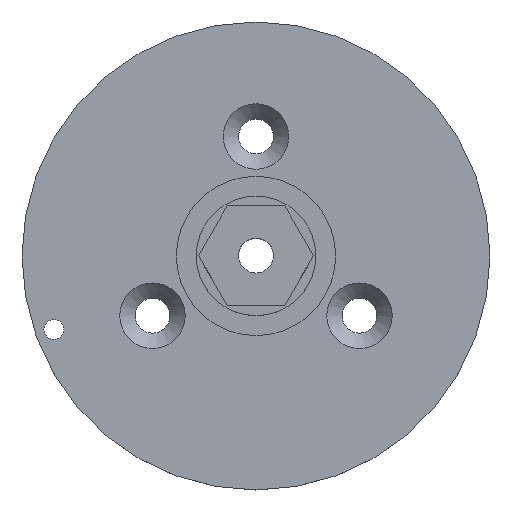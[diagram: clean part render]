
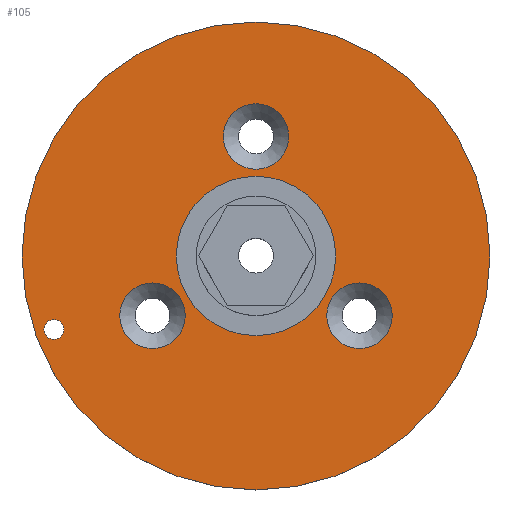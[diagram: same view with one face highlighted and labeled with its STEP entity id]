
A CAD part, top view. The second image highlights one B-rep face of the part: STEP entity #105.
In plain terms, the highlighted planar face has unit normal (0, 0, 1).
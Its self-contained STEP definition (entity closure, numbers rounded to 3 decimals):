
#21 = EDGE_CURVE('',#22,#22,#24,.T.);
#22 = VERTEX_POINT('',#23);
#23 = CARTESIAN_POINT('',(23.5,0.,2.5));
#24 = SURFACE_CURVE('',#25,(#30,#42),.PCURVE_S1.);
#25 = CIRCLE('',#26,23.5);
#26 = AXIS2_PLACEMENT_3D('',#27,#28,#29);
#27 = CARTESIAN_POINT('',(0.,0.,2.5));
#28 = DIRECTION('',(0.,0.,1.));
#29 = DIRECTION('',(1.,0.,-0.));
#30 = PCURVE('',#31,#36);
#31 = CYLINDRICAL_SURFACE('',#32,23.5);
#32 = AXIS2_PLACEMENT_3D('',#33,#34,#35);
#33 = CARTESIAN_POINT('',(0.,0.,0.));
#34 = DIRECTION('',(0.,0.,1.));
#35 = DIRECTION('',(1.,0.,-0.));
#36 = DEFINITIONAL_REPRESENTATION('',(#37),#41);
#37 = LINE('',#38,#39);
#38 = CARTESIAN_POINT('',(0.,2.5));
#39 = VECTOR('',#40,1.);
#40 = DIRECTION('',(1.,0.));
#41 = ( GEOMETRIC_REPRESENTATION_CONTEXT(2) 
PARAMETRIC_REPRESENTATION_CONTEXT() REPRESENTATION_CONTEXT('2D SPACE',''
  ) );
#42 = PCURVE('',#43,#48);
#43 = PLANE('',#44);
#44 = AXIS2_PLACEMENT_3D('',#45,#46,#47);
#45 = CARTESIAN_POINT('',(0.,0.,2.5));
#46 = DIRECTION('',(0.,0.,1.));
#47 = DIRECTION('',(1.,0.,-0.));
#48 = DEFINITIONAL_REPRESENTATION('',(#49),#53);
#49 = CIRCLE('',#50,23.5);
#50 = AXIS2_PLACEMENT_2D('',#51,#52);
#51 = CARTESIAN_POINT('',(0.,0.));
#52 = DIRECTION('',(1.,0.));
#53 = ( GEOMETRIC_REPRESENTATION_CONTEXT(2) 
PARAMETRIC_REPRESENTATION_CONTEXT() REPRESENTATION_CONTEXT('2D SPACE',''
  ) );
#105 = ADVANCED_FACE('',(#106,#109,#140,#171,#202,#233),#43,.T.);
#106 = FACE_BOUND('',#107,.T.);
#107 = EDGE_LOOP('',(#108));
#108 = ORIENTED_EDGE('',*,*,#21,.T.);
#109 = FACE_BOUND('',#110,.T.);
#110 = EDGE_LOOP('',(#111));
#111 = ORIENTED_EDGE('',*,*,#112,.F.);
#112 = EDGE_CURVE('',#113,#113,#115,.T.);
#113 = VERTEX_POINT('',#114);
#114 = CARTESIAN_POINT('',(-19.297,-7.388,2.5));
#115 = SURFACE_CURVE('',#116,(#121,#128),.PCURVE_S1.);
#116 = CIRCLE('',#117,1.);
#117 = AXIS2_PLACEMENT_3D('',#118,#119,#120);
#118 = CARTESIAN_POINT('',(-20.297,-7.388,2.5));
#119 = DIRECTION('',(0.,0.,1.));
#120 = DIRECTION('',(1.,0.,-0.));
#121 = PCURVE('',#43,#122);
#122 = DEFINITIONAL_REPRESENTATION('',(#123),#127);
#123 = CIRCLE('',#124,1.);
#124 = AXIS2_PLACEMENT_2D('',#125,#126);
#125 = CARTESIAN_POINT('',(-20.297,-7.388));
#126 = DIRECTION('',(1.,0.));
#127 = ( GEOMETRIC_REPRESENTATION_CONTEXT(2) 
PARAMETRIC_REPRESENTATION_CONTEXT() REPRESENTATION_CONTEXT('2D SPACE',''
  ) );
#128 = PCURVE('',#129,#134);
#129 = CYLINDRICAL_SURFACE('',#130,1.);
#130 = AXIS2_PLACEMENT_3D('',#131,#132,#133);
#131 = CARTESIAN_POINT('',(-20.297,-7.388,-0.5));
#132 = DIRECTION('',(0.,0.,1.));
#133 = DIRECTION('',(1.,0.,-0.));
#134 = DEFINITIONAL_REPRESENTATION('',(#135),#139);
#135 = LINE('',#136,#137);
#136 = CARTESIAN_POINT('',(0.,3.));
#137 = VECTOR('',#138,1.);
#138 = DIRECTION('',(1.,0.));
#139 = ( GEOMETRIC_REPRESENTATION_CONTEXT(2) 
PARAMETRIC_REPRESENTATION_CONTEXT() REPRESENTATION_CONTEXT('2D SPACE',''
  ) );
#140 = FACE_BOUND('',#141,.T.);
#141 = EDGE_LOOP('',(#142));
#142 = ORIENTED_EDGE('',*,*,#143,.F.);
#143 = EDGE_CURVE('',#144,#144,#146,.T.);
#144 = VERTEX_POINT('',#145);
#145 = CARTESIAN_POINT('',(-7.102,-6.,2.5));
#146 = SURFACE_CURVE('',#147,(#152,#159),.PCURVE_S1.);
#147 = CIRCLE('',#148,3.29);
#148 = AXIS2_PLACEMENT_3D('',#149,#150,#151);
#149 = CARTESIAN_POINT('',(-10.392,-6.,2.5));
#150 = DIRECTION('',(0.,0.,1.));
#151 = DIRECTION('',(1.,0.,-0.));
#152 = PCURVE('',#43,#153);
#153 = DEFINITIONAL_REPRESENTATION('',(#154),#158);
#154 = CIRCLE('',#155,3.29);
#155 = AXIS2_PLACEMENT_2D('',#156,#157);
#156 = CARTESIAN_POINT('',(-10.392,-6.));
#157 = DIRECTION('',(1.,0.));
#158 = ( GEOMETRIC_REPRESENTATION_CONTEXT(2) 
PARAMETRIC_REPRESENTATION_CONTEXT() REPRESENTATION_CONTEXT('2D SPACE',''
  ) );
#159 = PCURVE('',#160,#165);
#160 = CONICAL_SURFACE('',#161,1.75,0.766);
#161 = AXIS2_PLACEMENT_3D('',#162,#163,#164);
#162 = CARTESIAN_POINT('',(-10.392,-6.,0.9));
#163 = DIRECTION('',(0.,0.,1.));
#164 = DIRECTION('',(1.,0.,-0.));
#165 = DEFINITIONAL_REPRESENTATION('',(#166),#170);
#166 = LINE('',#167,#168);
#167 = CARTESIAN_POINT('',(0.,1.6));
#168 = VECTOR('',#169,1.);
#169 = DIRECTION('',(1.,0.));
#170 = ( GEOMETRIC_REPRESENTATION_CONTEXT(2) 
PARAMETRIC_REPRESENTATION_CONTEXT() REPRESENTATION_CONTEXT('2D SPACE',''
  ) );
#171 = FACE_BOUND('',#172,.T.);
#172 = EDGE_LOOP('',(#173));
#173 = ORIENTED_EDGE('',*,*,#174,.F.);
#174 = EDGE_CURVE('',#175,#175,#177,.T.);
#175 = VERTEX_POINT('',#176);
#176 = CARTESIAN_POINT('',(13.683,-6.,2.5));
#177 = SURFACE_CURVE('',#178,(#183,#190),.PCURVE_S1.);
#178 = CIRCLE('',#179,3.29);
#179 = AXIS2_PLACEMENT_3D('',#180,#181,#182);
#180 = CARTESIAN_POINT('',(10.392,-6.,2.5));
#181 = DIRECTION('',(0.,0.,1.));
#182 = DIRECTION('',(1.,0.,-0.));
#183 = PCURVE('',#43,#184);
#184 = DEFINITIONAL_REPRESENTATION('',(#185),#189);
#185 = CIRCLE('',#186,3.29);
#186 = AXIS2_PLACEMENT_2D('',#187,#188);
#187 = CARTESIAN_POINT('',(10.392,-6.));
#188 = DIRECTION('',(1.,0.));
#189 = ( GEOMETRIC_REPRESENTATION_CONTEXT(2) 
PARAMETRIC_REPRESENTATION_CONTEXT() REPRESENTATION_CONTEXT('2D SPACE',''
  ) );
#190 = PCURVE('',#191,#196);
#191 = CONICAL_SURFACE('',#192,1.75,0.766);
#192 = AXIS2_PLACEMENT_3D('',#193,#194,#195);
#193 = CARTESIAN_POINT('',(10.392,-6.,0.9));
#194 = DIRECTION('',(0.,0.,1.));
#195 = DIRECTION('',(1.,0.,-0.));
#196 = DEFINITIONAL_REPRESENTATION('',(#197),#201);
#197 = LINE('',#198,#199);
#198 = CARTESIAN_POINT('',(0.,1.6));
#199 = VECTOR('',#200,1.);
#200 = DIRECTION('',(1.,0.));
#201 = ( GEOMETRIC_REPRESENTATION_CONTEXT(2) 
PARAMETRIC_REPRESENTATION_CONTEXT() REPRESENTATION_CONTEXT('2D SPACE',''
  ) );
#202 = FACE_BOUND('',#203,.T.);
#203 = EDGE_LOOP('',(#204));
#204 = ORIENTED_EDGE('',*,*,#205,.F.);
#205 = EDGE_CURVE('',#206,#206,#208,.T.);
#206 = VERTEX_POINT('',#207);
#207 = CARTESIAN_POINT('',(8.,0.,2.5));
#208 = SURFACE_CURVE('',#209,(#214,#221),.PCURVE_S1.);
#209 = CIRCLE('',#210,8.);
#210 = AXIS2_PLACEMENT_3D('',#211,#212,#213);
#211 = CARTESIAN_POINT('',(0.,0.,2.5));
#212 = DIRECTION('',(0.,0.,1.));
#213 = DIRECTION('',(1.,0.,-0.));
#214 = PCURVE('',#43,#215);
#215 = DEFINITIONAL_REPRESENTATION('',(#216),#220);
#216 = CIRCLE('',#217,8.);
#217 = AXIS2_PLACEMENT_2D('',#218,#219);
#218 = CARTESIAN_POINT('',(0.,0.));
#219 = DIRECTION('',(1.,0.));
#220 = ( GEOMETRIC_REPRESENTATION_CONTEXT(2) 
PARAMETRIC_REPRESENTATION_CONTEXT() REPRESENTATION_CONTEXT('2D SPACE',''
  ) );
#221 = PCURVE('',#222,#227);
#222 = CYLINDRICAL_SURFACE('',#223,8.);
#223 = AXIS2_PLACEMENT_3D('',#224,#225,#226);
#224 = CARTESIAN_POINT('',(0.,0.,2.5));
#225 = DIRECTION('',(0.,0.,1.));
#226 = DIRECTION('',(1.,0.,-0.));
#227 = DEFINITIONAL_REPRESENTATION('',(#228),#232);
#228 = LINE('',#229,#230);
#229 = CARTESIAN_POINT('',(0.,0.));
#230 = VECTOR('',#231,1.);
#231 = DIRECTION('',(1.,0.));
#232 = ( GEOMETRIC_REPRESENTATION_CONTEXT(2) 
PARAMETRIC_REPRESENTATION_CONTEXT() REPRESENTATION_CONTEXT('2D SPACE',''
  ) );
#233 = FACE_BOUND('',#234,.T.);
#234 = EDGE_LOOP('',(#235));
#235 = ORIENTED_EDGE('',*,*,#236,.F.);
#236 = EDGE_CURVE('',#237,#237,#239,.T.);
#237 = VERTEX_POINT('',#238);
#238 = CARTESIAN_POINT('',(3.29,12.,2.5));
#239 = SURFACE_CURVE('',#240,(#245,#252),.PCURVE_S1.);
#240 = CIRCLE('',#241,3.29);
#241 = AXIS2_PLACEMENT_3D('',#242,#243,#244);
#242 = CARTESIAN_POINT('',(0.,12.,2.5));
#243 = DIRECTION('',(0.,0.,1.));
#244 = DIRECTION('',(1.,0.,-0.));
#245 = PCURVE('',#43,#246);
#246 = DEFINITIONAL_REPRESENTATION('',(#247),#251);
#247 = CIRCLE('',#248,3.29);
#248 = AXIS2_PLACEMENT_2D('',#249,#250);
#249 = CARTESIAN_POINT('',(0.,12.));
#250 = DIRECTION('',(1.,0.));
#251 = ( GEOMETRIC_REPRESENTATION_CONTEXT(2) 
PARAMETRIC_REPRESENTATION_CONTEXT() REPRESENTATION_CONTEXT('2D SPACE',''
  ) );
#252 = PCURVE('',#253,#258);
#253 = CONICAL_SURFACE('',#254,1.75,0.766);
#254 = AXIS2_PLACEMENT_3D('',#255,#256,#257);
#255 = CARTESIAN_POINT('',(0.,12.,0.9));
#256 = DIRECTION('',(0.,0.,1.));
#257 = DIRECTION('',(1.,0.,-0.));
#258 = DEFINITIONAL_REPRESENTATION('',(#259),#263);
#259 = LINE('',#260,#261);
#260 = CARTESIAN_POINT('',(0.,1.6));
#261 = VECTOR('',#262,1.);
#262 = DIRECTION('',(1.,0.));
#263 = ( GEOMETRIC_REPRESENTATION_CONTEXT(2) 
PARAMETRIC_REPRESENTATION_CONTEXT() REPRESENTATION_CONTEXT('2D SPACE',''
  ) );
